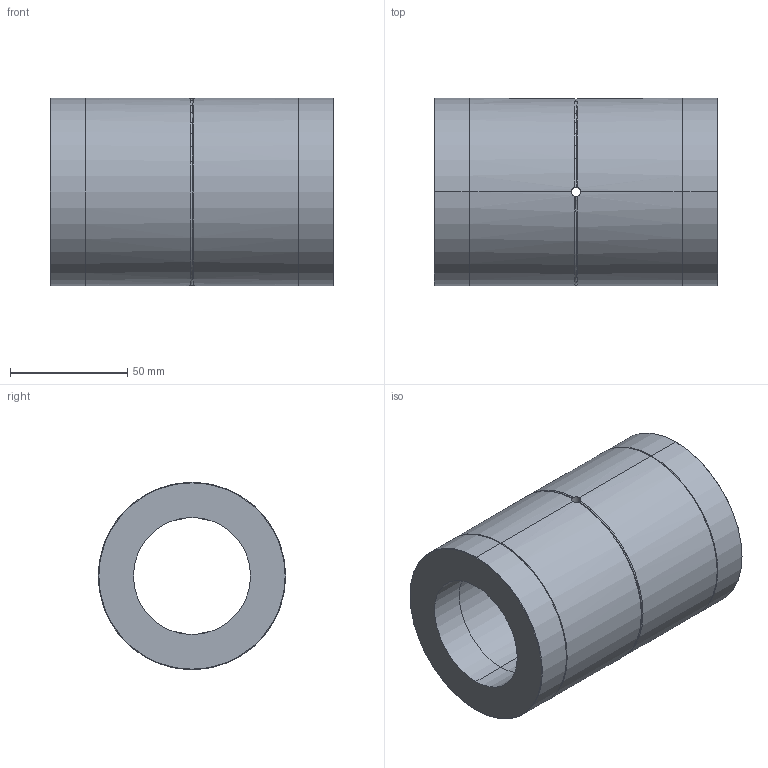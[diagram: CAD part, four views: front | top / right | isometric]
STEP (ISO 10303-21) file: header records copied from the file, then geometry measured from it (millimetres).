
FILE_DESCRIPTION (( 'STEP AP203' ), '1' );
FILE_NAME ('KLT050T4.STEP', '2023-08-11T07:19:29', ( 'Microsoft' ), ( 'Microsoft' ), 'SwSTEP 2.0', 'SolidWorks 2022', '' );
FILE_SCHEMA (( 'CONFIG_CONTROL_DESIGN' ));
Length unit declared in the file: millimetre
Products named in the file (4): 零件4^KLT050T4; 零件7^KLT050T4; KLT050T4; 零件6^KLT050T4
Assembly tree (3 placements, depth 2):
  KLT050T4
    零件4^KLT050T4
    零件6^KLT050T4
    零件7^KLT050T4
Bounding box: 121 x 80 x 80 mm (x, y, z)
Volume: 368416.7 mm3; surface area: 68447.1 mm2
Topology: 3 solids, 3 shells, 47 faces, 115 edges, 70 vertices
Faces by surface type: cylinder 20, cone 12, plane 9, torus 6
Entity records: 2064 total; most frequent: CARTESIAN_POINT 544, DIRECTION 242, ORIENTED_EDGE 230, EDGE_CURVE 115, AXIS2_PLACEMENT_3D 100, VERTEX_POINT 70, EDGE_LOOP 53, ADVANCED_FACE 47
